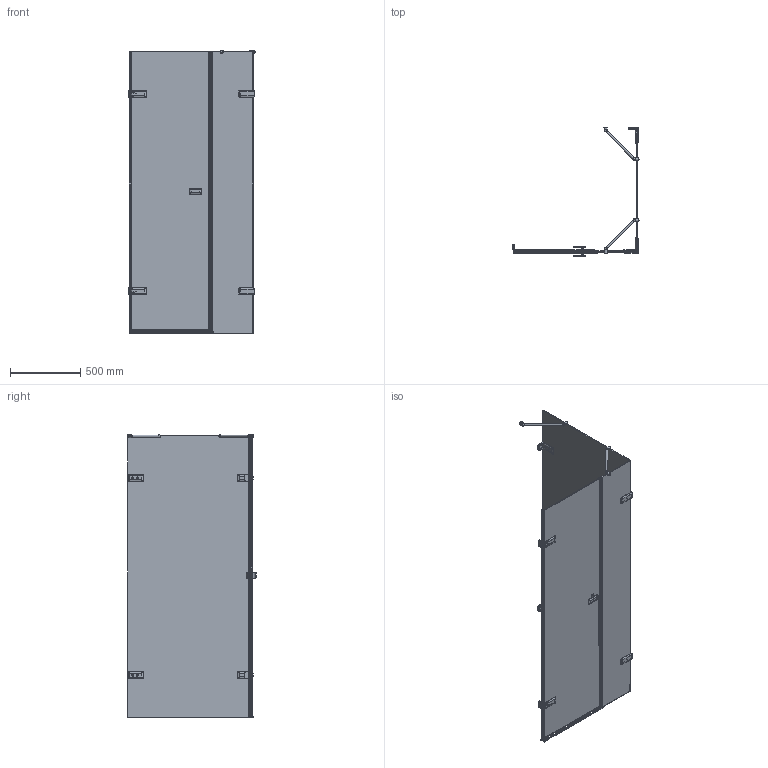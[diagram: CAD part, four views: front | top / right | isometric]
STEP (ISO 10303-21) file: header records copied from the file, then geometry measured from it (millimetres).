
FILE_DESCRIPTION(/* description */ (''),/* implementation_level */ '2;1');
FILE_NAME(/* name */ 'D:\3\TREND SQUARE GK-863CTWO\TREND SQUARE GK-863CTWO левая модель\TREND SQUARE GK-863CTWO ЛЕВАЯ-3D.stp',/* time_stamp */ '2020-03-27T20:50:51+03:00',/* author */ ('User'),/* organization */ (''),/* preprocessor_version */ 'ST-DEVELOPER v15.2',/* originating_system */ 'Autodesk Inventor 2014',/* authorisation */ '');
FILE_SCHEMA (('AUTOMOTIVE_DESIGN { 1 0 10303 214 3 1 1 }'));
Products named in the file (1): TREND SQUARE GK-863CTWO ЛЕВАЯ-3
D
Bounding box: 895.5 x 912.6 x 2009.49 mm (x, y, z)
Volume: 21794539 mm3; surface area: 7886944.5 mm2
Topology: 7 solids, 28 shells, 1469 faces, 3928 edges, 2571 vertices
Faces by surface type: plane 852, cylinder 425, bspline 102, torus 48, cone 26, sphere 16
Full cylindrical faces by diameter (mm): 4 x2, 4.134 x2, 4.917 x4, 5 x6, 5.2 x2, 6 x2, 7.2 x4, 8 x2, 11 x2, 12 x2, 13 x10, 15 x2, 16 x10, 20 x4, 26 x1, 28 x2, 28.5 x2, 40 x2
Entity records: 51895 total; most frequent: CARTESIAN_POINT 14939, ORIENTED_EDGE 7274, DIRECTION 7183, EDGE_CURVE 3634, LINE 2413, VECTOR 2413, AXIS2_PLACEMENT_3D 2385, VERTEX_POINT 2338
